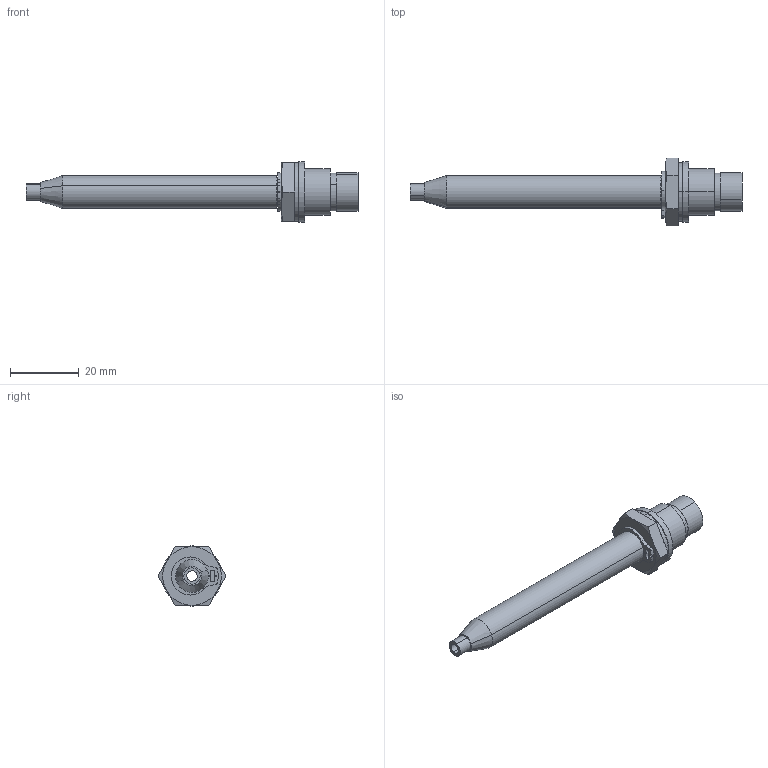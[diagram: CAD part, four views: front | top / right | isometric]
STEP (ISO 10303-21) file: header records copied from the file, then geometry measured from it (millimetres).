
FILE_DESCRIPTION (( 'STEP AP214' ), '1' );
FILE_NAME ('0000003182.STEP', '2015-11-23T15:19:50', ( 'HP' ), ( 'Hewlett-Packard Company' ), 'SwSTEP 2.0', 'SolidWorks 2014', '' );
FILE_SCHEMA (( 'AUTOMOTIVE_DESIGN' ));
Length unit declared in the file: millimetre
Products named in the file (5): circlip for shafts normal_din_Circlip DIN 471 - 9 x 1; 0000003179; 0000003182; 0000003181; 0000003180
Assembly tree (4 placements, depth 2):
  0000003182
    0000003181
    0000003180
    circlip for shafts normal_din_Circlip DIN 471 - 9 x 1
    0000003179
Bounding box: 96.3 x 19.63 x 17.5 mm (x, y, z)
Volume: 7568.3 mm3; surface area: 8734 mm2
Topology: 5 solids, 5 shells, 99 faces, 229 edges, 146 vertices
Faces by surface type: cylinder 45, plane 38, cone 16
Entity records: 3225 total; most frequent: CARTESIAN_POINT 557, DIRECTION 525, ORIENTED_EDGE 458, EDGE_CURVE 229, AXIS2_PLACEMENT_3D 214, VERTEX_POINT 146, EDGE_LOOP 113, CIRCLE 108
